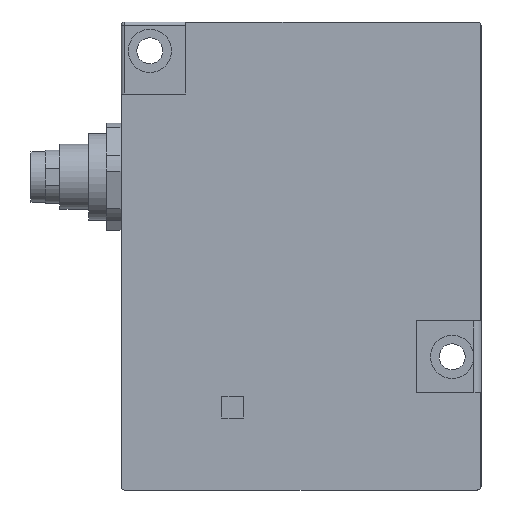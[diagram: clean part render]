
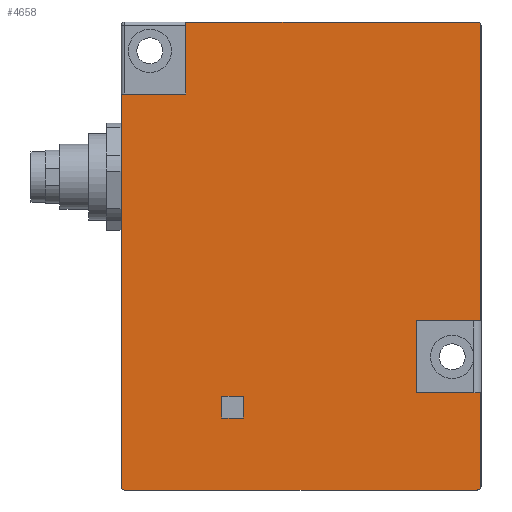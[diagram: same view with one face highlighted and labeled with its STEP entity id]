
A CAD part, front view. The second image highlights one B-rep face of the part: STEP entity #4658.
In plain terms, the highlighted planar face has unit normal (0, -1, 0).
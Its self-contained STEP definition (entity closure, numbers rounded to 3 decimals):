
#256 = CARTESIAN_POINT ( 'NONE',  ( 41., 0., -41.5 ) ) ;
#279 = CARTESIAN_POINT ( 'NONE',  ( 14., 0., -52. ) ) ;
#316 = CARTESIAN_POINT ( 'NONE',  ( 49.866, 0., -0.159 ) ) ;
#899 = PLANE ( 'NONE',  #6811 ) ;
#900 = CARTESIAN_POINT ( 'NONE',  ( 0., 0., -65. ) ) ;
#901 = DIRECTION ( 'NONE',  ( 0., -1., 0. ) ) ;
#902 = DIRECTION ( 'NONE',  ( 0., 0., -1. ) ) ;
#1323 = AXIS2_PLACEMENT_3D ( 'NONE', #3438, #3437, #3436 ) ;
#1325 = AXIS2_PLACEMENT_3D ( 'NONE', #3464, #3462, #3461 ) ;
#1328 = AXIS2_PLACEMENT_3D ( 'NONE', #3397, #3394, #3392 ) ;
#2160 = FACE_OUTER_BOUND ( 'NONE', #8863, .T. ) ;
#2161 = FACE_BOUND ( 'NONE', #8710, .T. ) ;
#2515 = EDGE_CURVE ( 'NONE', #3277, #3314, #3593, .T. ) ;
#2541 = EDGE_CURVE ( 'NONE', #3314, #5998, #3637, .T. ) ;
#2558 = EDGE_CURVE ( 'NONE', #5998, #3300, #3661, .T. ) ;
#2559 = EDGE_CURVE ( '������17', #3289, #6035, #3664, .T. ) ;
#2560 = EDGE_CURVE ( 'NONE', #6035, #3261, #3667, .T. ) ;
#2561 = EDGE_CURVE ( '������39', #3289, #5975, #3666, .T. ) ;
#2564 = EDGE_CURVE ( 'NONE', #3300, #3277, #3672, .T. ) ;
#2565 = EDGE_CURVE ( '������1', #3290, #3327, #3674, .T. ) ;
#2566 = EDGE_CURVE ( '������48', #3298, #3290, #3676, .T. ) ;
#2567 = EDGE_CURVE ( 'NONE', #3327, #3261, #3678, .T. ) ;
#2570 = EDGE_CURVE ( 'NONE', #3271, #3304, #3684, .T. ) ;
#2571 = EDGE_CURVE ( '������85', #3287, #3304, #3683, .T. ) ;
#2572 = EDGE_CURVE ( 'NONE', #3271, #3298, #3686, .T. ) ;
#2575 = EDGE_CURVE ( '������13', #5975, #3255, #3690, .T. ) ;
#2576 = EDGE_CURVE ( '������100', #3272, #3274, #3693, .T. ) ;
#2577 = EDGE_CURVE ( '������45', #3255, #3274, #3695, .T. ) ;
#2578 = EDGE_CURVE ( 'NONE', #3287, #3272, #3697, .T. ) ;
#3255 = VERTEX_POINT ( 'NONE', #4958 ) ;
#3261 = VERTEX_POINT ( 'NONE', #4964 ) ;
#3271 = VERTEX_POINT ( 'NONE', #4974 ) ;
#3272 = VERTEX_POINT ( 'NONE', #4975 ) ;
#3274 = VERTEX_POINT ( 'NONE', #4977 ) ;
#3277 = VERTEX_POINT ( 'NONE', #4980 ) ;
#3287 = VERTEX_POINT ( 'NONE', #4990 ) ;
#3289 = VERTEX_POINT ( 'NONE', #4992 ) ;
#3290 = VERTEX_POINT ( 'NONE', #4993 ) ;
#3298 = VERTEX_POINT ( 'NONE', #5001 ) ;
#3300 = VERTEX_POINT ( 'NONE', #5003 ) ;
#3304 = VERTEX_POINT ( 'NONE', #5007 ) ;
#3314 = VERTEX_POINT ( 'NONE', #5017 ) ;
#3327 = VERTEX_POINT ( 'NONE', #5030 ) ;
#3366 = CARTESIAN_POINT ( 'NONE',  ( 14., 0., -55. ) ) ;
#3386 = DIRECTION ( 'NONE',  ( -1., 0., 0. ) ) ;
#3388 = CARTESIAN_POINT ( 'NONE',  ( 50., 0., -41.5 ) ) ;
#3392 = DIRECTION ( 'NONE',  ( 0., 0., -1. ) ) ;
#3394 = DIRECTION ( 'NONE',  ( 0., -1., 0. ) ) ;
#3397 = CARTESIAN_POINT ( 'NONE',  ( 49.5, 0., -0.5 ) ) ;
#3401 = DIRECTION ( 'NONE',  ( 0., 0., 1. ) ) ;
#3403 = CARTESIAN_POINT ( 'NONE',  ( 49.866, 0., -41.5 ) ) ;
#3408 = DIRECTION ( 'NONE',  ( 0., 0., -1. ) ) ;
#3410 = CARTESIAN_POINT ( 'NONE',  ( 14., 0., -52. ) ) ;
#3436 = DIRECTION ( 'NONE',  ( 0., 0., -1. ) ) ;
#3437 = DIRECTION ( 'NONE',  ( 0., -1., 0. ) ) ;
#3438 = CARTESIAN_POINT ( 'NONE',  ( 49.5, 0., -64.5 ) ) ;
#3439 = DIRECTION ( 'NONE',  ( 1., 0., 0. ) ) ;
#3441 = CARTESIAN_POINT ( 'NONE',  ( 50., 0., -51.5 ) ) ;
#3443 = DIRECTION ( 'NONE',  ( 0., 0., 1. ) ) ;
#3444 = CARTESIAN_POINT ( 'NONE',  ( 49.866, 0., -64.841 ) ) ;
#3446 = DIRECTION ( 'NONE',  ( 0., 0., -1. ) ) ;
#3447 = CARTESIAN_POINT ( 'NONE',  ( 41., 0., -41.5 ) ) ;
#3455 = DIRECTION ( 'NONE',  ( 0., 0., 1. ) ) ;
#3457 = CARTESIAN_POINT ( 'NONE',  ( 0., 0., 0. ) ) ;
#3458 = DIRECTION ( 'NONE',  ( -1., 0., 0. ) ) ;
#3459 = CARTESIAN_POINT ( 'NONE',  ( 0., 0., -65. ) ) ;
#3461 = DIRECTION ( 'NONE',  ( 0., 0., -1. ) ) ;
#3462 = DIRECTION ( 'NONE',  ( 0., -1., 0. ) ) ;
#3464 = CARTESIAN_POINT ( 'NONE',  ( 0.5, 0., -64.5 ) ) ;
#3472 = DIRECTION ( 'NONE',  ( 1., 0., 0. ) ) ;
#3474 = CARTESIAN_POINT ( 'NONE',  ( 0., 0., 0. ) ) ;
#3475 = DIRECTION ( 'NONE',  ( 1., 0., 0. ) ) ;
#3477 = CARTESIAN_POINT ( 'NONE',  ( 0., 0., -10. ) ) ;
#3478 = DIRECTION ( 'NONE',  ( 0., 0., 1. ) ) ;
#3479 = CARTESIAN_POINT ( 'NONE',  ( 9., 0., 0. ) ) ;
#3481 = DIRECTION ( 'NONE',  ( 1., 0., 0. ) ) ;
#3593 = LINE ( 'NONE', #4483, #3595 ) ;
#3595 = VECTOR ( 'NONE', #4325, 1000. ) ;
#3637 = LINE ( 'NONE', #4543, #3638 ) ;
#3638 = VECTOR ( 'NONE', #4527, 1000. ) ;
#3661 = LINE ( 'NONE', #3410, #3663 ) ;
#3663 = VECTOR ( 'NONE', #3408, 1000. ) ;
#3664 = LINE ( 'NONE', #3403, #3665 ) ;
#3665 = VECTOR ( 'NONE', #3401, 1000. ) ;
#3666 = LINE ( 'NONE', #3388, #3668 ) ;
#3667 = CIRCLE ( 'NONE', #1328, 0.5 ) ;
#3668 = VECTOR ( 'NONE', #3386, 1000. ) ;
#3672 = LINE ( 'NONE', #3366, #3673 ) ;
#3673 = VECTOR ( 'NONE', #3481, 1000. ) ;
#3674 = LINE ( 'NONE', #3479, #3675 ) ;
#3675 = VECTOR ( 'NONE', #3478, 1000. ) ;
#3676 = LINE ( 'NONE', #3477, #3677 ) ;
#3677 = VECTOR ( 'NONE', #3475, 1000. ) ;
#3678 = LINE ( 'NONE', #3474, #3679 ) ;
#3679 = VECTOR ( 'NONE', #3472, 1000. ) ;
#3683 = LINE ( 'NONE', #3459, #3685 ) ;
#3684 = CIRCLE ( 'NONE', #1325, 0.5 ) ;
#3685 = VECTOR ( 'NONE', #3458, 1000. ) ;
#3686 = LINE ( 'NONE', #3457, #3687 ) ;
#3687 = VECTOR ( 'NONE', #3455, 1000. ) ;
#3690 = LINE ( 'NONE', #3447, #3692 ) ;
#3692 = VECTOR ( 'NONE', #3446, 1000. ) ;
#3693 = LINE ( 'NONE', #3444, #3694 ) ;
#3694 = VECTOR ( 'NONE', #3443, 1000. ) ;
#3695 = LINE ( 'NONE', #3441, #3696 ) ;
#3696 = VECTOR ( 'NONE', #3439, 1000. ) ;
#3697 = CIRCLE ( 'NONE', #1323, 0.5 ) ;
#4325 = DIRECTION ( 'NONE',  ( 0., 0., 1. ) ) ;
#4483 = CARTESIAN_POINT ( 'NONE',  ( 17., 0., -52. ) ) ;
#4527 = DIRECTION ( 'NONE',  ( -1., 0., 0. ) ) ;
#4543 = CARTESIAN_POINT ( 'NONE',  ( 14., 0., -52. ) ) ;
#4658 = ADVANCED_FACE ( '�����12', ( #2160, #2161 ), #899, .T. ) ;
#4958 = CARTESIAN_POINT ( 'NONE',  ( 41., 0., -51.5 ) ) ;
#4964 = CARTESIAN_POINT ( 'NONE',  ( 49.5, 0., 0. ) ) ;
#4974 = CARTESIAN_POINT ( 'NONE',  ( 0., 0., -64.5 ) ) ;
#4975 = CARTESIAN_POINT ( 'NONE',  ( 49.866, 0., -64.841 ) ) ;
#4977 = CARTESIAN_POINT ( 'NONE',  ( 49.866, 0., -51.5 ) ) ;
#4980 = CARTESIAN_POINT ( 'NONE',  ( 17., 0., -55. ) ) ;
#4990 = CARTESIAN_POINT ( 'NONE',  ( 49.5, 0., -65. ) ) ;
#4992 = CARTESIAN_POINT ( 'NONE',  ( 49.866, 0., -41.5 ) ) ;
#4993 = CARTESIAN_POINT ( 'NONE',  ( 9., 0., -10. ) ) ;
#5001 = CARTESIAN_POINT ( 'NONE',  ( 0., 0., -10. ) ) ;
#5003 = CARTESIAN_POINT ( 'NONE',  ( 14., 0., -55. ) ) ;
#5007 = CARTESIAN_POINT ( 'NONE',  ( 0.5, 0., -65. ) ) ;
#5017 = CARTESIAN_POINT ( 'NONE',  ( 17., 0., -52. ) ) ;
#5030 = CARTESIAN_POINT ( 'NONE',  ( 9., 0., 0. ) ) ;
#5975 = VERTEX_POINT ( 'NONE', #256 ) ;
#5998 = VERTEX_POINT ( 'NONE', #279 ) ;
#6035 = VERTEX_POINT ( 'NONE', #316 ) ;
#6811 = AXIS2_PLACEMENT_3D ( 'NONE', #900, #901, #902 ) ;
#7183 = ORIENTED_EDGE ( 'NONE', *, *, #2560, .T. ) ;
#7184 = ORIENTED_EDGE ( 'NONE', *, *, #2570, .T. ) ;
#7186 = ORIENTED_EDGE ( 'NONE', *, *, #2577, .F. ) ;
#7187 = ORIENTED_EDGE ( 'NONE', *, *, #2567, .F. ) ;
#7189 = ORIENTED_EDGE ( 'NONE', *, *, #2515, .F. ) ;
#7190 = ORIENTED_EDGE ( 'NONE', *, *, #2541, .F. ) ;
#7191 = ORIENTED_EDGE ( 'NONE', *, *, #2558, .F. ) ;
#7194 = ORIENTED_EDGE ( 'NONE', *, *, #2576, .T. ) ;
#7195 = ORIENTED_EDGE ( 'NONE', *, *, #2559, .T. ) ;
#7196 = ORIENTED_EDGE ( 'NONE', *, *, #2565, .F. ) ;
#7197 = ORIENTED_EDGE ( 'NONE', *, *, #2561, .F. ) ;
#7198 = ORIENTED_EDGE ( 'NONE', *, *, #2566, .F. ) ;
#7203 = ORIENTED_EDGE ( 'NONE', *, *, #2572, .F. ) ;
#7205 = ORIENTED_EDGE ( 'NONE', *, *, #2564, .F. ) ;
#7206 = ORIENTED_EDGE ( 'NONE', *, *, #2571, .F. ) ;
#7207 = ORIENTED_EDGE ( 'NONE', *, *, #2575, .F. ) ;
#7545 = ORIENTED_EDGE ( 'NONE', *, *, #2578, .T. ) ;
#8710 = EDGE_LOOP ( 'NONE', ( #7205, #7191, #7190, #7189 ) ) ;
#8863 = EDGE_LOOP ( 'NONE', ( #7197, #7195, #7183, #7187, #7196, #7198, #7203, #7184, #7206, #7545, #7194, #7186, #7207 ) ) ;
